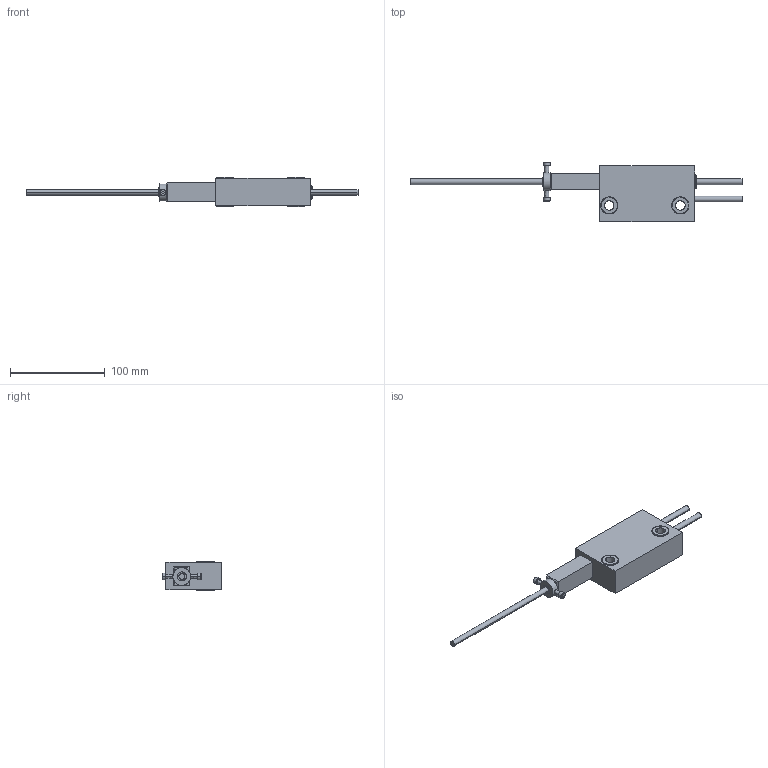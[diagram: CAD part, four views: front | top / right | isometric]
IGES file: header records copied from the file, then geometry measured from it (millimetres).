
Global section: file name: E:\UnigraphicsGraphicData\MISUMI_PRESS-PARTS\IGES\3d_mgul_04583_r00.igs; native system: NX V5.0; preprocessor: UGS NX IGES V5.0; author: MISUMI; date: 20110105.161445; units: millimetre
Bounding box: 350 x 63.05 x 31 mm (x, y, z)
Surface area: 32207.4 mm2 (no closed solid volume)
Topology: 0 solids, 0 shells, 96 faces, 622 edges, 622 vertices
Faces by surface type: bspline 96
